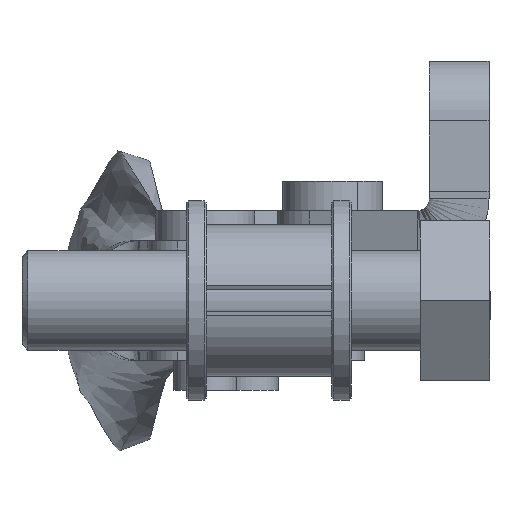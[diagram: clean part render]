
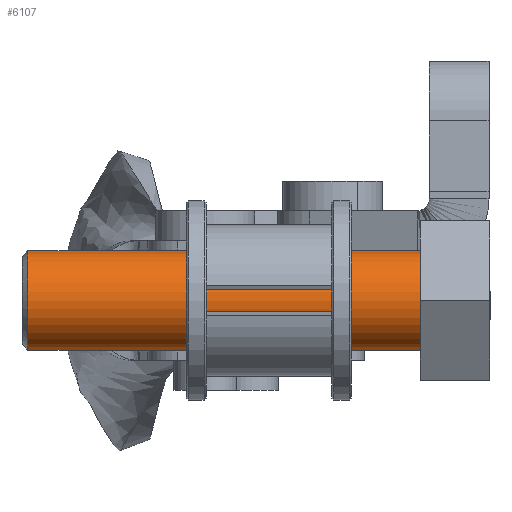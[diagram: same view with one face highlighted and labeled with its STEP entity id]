
A CAD part, left-side view. The second image highlights one B-rep face of the part: STEP entity #6107.
In plain terms, the highlighted cylindrical face has radius 2.5 mm (diameter 5 mm), a partial arc.
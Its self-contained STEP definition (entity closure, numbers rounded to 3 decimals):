
#474 = CARTESIAN_POINT ( 'NONE',  ( 0., -19.7, 2.5 ) ) ;
#478 = ORIENTED_EDGE ( 'NONE', *, *, #6863, .T. ) ;
#811 = CIRCLE ( 'NONE', #2224, 2.5 ) ;
#855 = CARTESIAN_POINT ( 'NONE',  ( 0., -20., -2.5 ) ) ;
#869 = CARTESIAN_POINT ( 'NONE',  ( 0., 0., -2.5 ) ) ;
#1060 = LINE ( 'NONE', #2588, #4218 ) ;
#1492 = DIRECTION ( 'NONE',  ( 0., 1., 0. ) ) ;
#1535 = AXIS2_PLACEMENT_3D ( 'NONE', #6156, #2388, #6793 ) ;
#1811 = EDGE_CURVE ( 'NONE', #6313, #6404, #2799, .T. ) ;
#1890 = DIRECTION ( 'NONE',  ( 0., 1., 0. ) ) ;
#1894 = FACE_OUTER_BOUND ( 'NONE', #2019, .T. ) ;
#1965 = DIRECTION ( 'NONE',  ( 0., 1., 0. ) ) ;
#2019 = EDGE_LOOP ( 'NONE', ( #4836, #478, #5466, #4646 ) ) ;
#2224 = AXIS2_PLACEMENT_3D ( 'NONE', #5656, #1890, #6284 ) ;
#2253 = VERTEX_POINT ( 'NONE', #474 ) ;
#2388 = DIRECTION ( 'NONE',  ( 0., -1., 0. ) ) ;
#2451 = DIRECTION ( 'NONE',  ( 0., 0., 1. ) ) ;
#2588 = CARTESIAN_POINT ( 'NONE',  ( 0., -20., 2.5 ) ) ;
#2799 = LINE ( 'NONE', #855, #7616 ) ;
#3178 = EDGE_CURVE ( 'NONE', #5780, #6404, #7687, .T. ) ;
#3814 = AXIS2_PLACEMENT_3D ( 'NONE', #6856, #8127, #2451 ) ;
#3914 = CARTESIAN_POINT ( 'NONE',  ( 0., -19.7, -2.5 ) ) ;
#4074 = EDGE_CURVE ( 'NONE', #2253, #5780, #1060, .T. ) ;
#4218 = VECTOR ( 'NONE', #1965, 1000. ) ;
#4646 = ORIENTED_EDGE ( 'NONE', *, *, #3178, .T. ) ;
#4836 = ORIENTED_EDGE ( 'NONE', *, *, #1811, .F. ) ;
#5052 = CYLINDRICAL_SURFACE ( 'NONE', #3814, 2.5 ) ;
#5466 = ORIENTED_EDGE ( 'NONE', *, *, #4074, .T. ) ;
#5656 = CARTESIAN_POINT ( 'NONE',  ( 0., -19.7, 0. ) ) ;
#5780 = VERTEX_POINT ( 'NONE', #6642 ) ;
#6107 = ADVANCED_FACE ( 'NONE', ( #1894 ), #5052, .T. ) ;
#6156 = CARTESIAN_POINT ( 'NONE',  ( 0., 0., 0. ) ) ;
#6284 = DIRECTION ( 'NONE',  ( 0., 0., -1. ) ) ;
#6313 = VERTEX_POINT ( 'NONE', #3914 ) ;
#6404 = VERTEX_POINT ( 'NONE', #869 ) ;
#6642 = CARTESIAN_POINT ( 'NONE',  ( 0., 0., 2.5 ) ) ;
#6793 = DIRECTION ( 'NONE',  ( 0., 0., 1. ) ) ;
#6856 = CARTESIAN_POINT ( 'NONE',  ( 0., -20., 0. ) ) ;
#6863 = EDGE_CURVE ( 'NONE', #6313, #2253, #811, .T. ) ;
#7616 = VECTOR ( 'NONE', #1492, 1000. ) ;
#7687 = CIRCLE ( 'NONE', #1535, 2.5 ) ;
#8127 = DIRECTION ( 'NONE',  ( 0., 1., 0. ) ) ;
